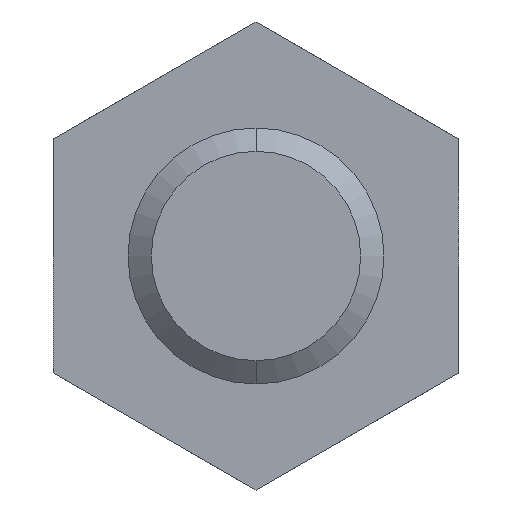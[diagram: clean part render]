
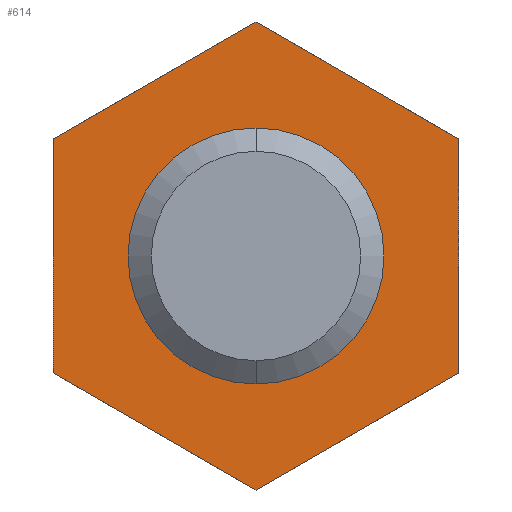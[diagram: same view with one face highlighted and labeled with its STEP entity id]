
A CAD part, front view. The second image highlights one B-rep face of the part: STEP entity #614.
In plain terms, the highlighted planar face has unit normal (0, -1, 0).
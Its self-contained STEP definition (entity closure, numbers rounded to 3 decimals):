
#261 = VERTEX_POINT ( 'NONE', #2275 ) ;
#263 = EDGE_CURVE ( 'NONE', #274, #261, #2274, .T. ) ;
#274 = VERTEX_POINT ( 'NONE', #2300 ) ;
#276 = EDGE_CURVE ( 'NONE', #1784, #274, #2299, .T. ) ;
#328 = EDGE_CURVE ( 'NONE', #261, #1661, #2379, .T. ) ;
#614 = ADVANCED_FACE ( 'NONE', ( #2861, #2857 ), #2856, .T. ) ;
#615 = EDGE_LOOP ( 'NONE', ( #616, #617 ) ) ;
#616 = ORIENTED_EDGE ( 'NONE', *, *, #5480, .T. ) ;
#617 = ORIENTED_EDGE ( 'NONE', *, *, #618, .T. ) ;
#618 = EDGE_CURVE ( 'NONE', #5482, #5481, #2850, .T. ) ;
#619 = EDGE_LOOP ( 'NONE', ( #620, #621, #622, #623, #677, #678 ) ) ;
#620 = ORIENTED_EDGE ( 'NONE', *, *, #1645, .T. ) ;
#621 = ORIENTED_EDGE ( 'NONE', *, *, #1721, .T. ) ;
#622 = ORIENTED_EDGE ( 'NONE', *, *, #1789, .T. ) ;
#623 = ORIENTED_EDGE ( 'NONE', *, *, #276, .T. ) ;
#677 = ORIENTED_EDGE ( 'NONE', *, *, #263, .T. ) ;
#678 = ORIENTED_EDGE ( 'NONE', *, *, #328, .T. ) ;
#1643 = VERTEX_POINT ( 'NONE', #4713 ) ;
#1645 = EDGE_CURVE ( 'NONE', #1661, #1643, #4712, .T. ) ;
#1661 = VERTEX_POINT ( 'NONE', #4749 ) ;
#1721 = EDGE_CURVE ( 'NONE', #1643, #1728, #4824, .T. ) ;
#1728 = VERTEX_POINT ( 'NONE', #4850 ) ;
#1784 = VERTEX_POINT ( 'NONE', #4989 ) ;
#1789 = EDGE_CURVE ( 'NONE', #1728, #1784, #4986, .T. ) ;
#2271 = DIRECTION ( 'NONE',  ( 0.866, 0., 0.5 ) ) ;
#2272 = VECTOR ( 'NONE', #2271, 1000. ) ;
#2273 = CARTESIAN_POINT ( 'NONE',  ( 0., 40., -10.97 ) ) ;
#2274 = LINE ( 'NONE', #2273, #2272 ) ;
#2275 = CARTESIAN_POINT ( 'NONE',  ( 9.5, 40., -5.485 ) ) ;
#2296 = DIRECTION ( 'NONE',  ( 0.866, 0., -0.5 ) ) ;
#2297 = VECTOR ( 'NONE', #2296, 1000. ) ;
#2298 = CARTESIAN_POINT ( 'NONE',  ( -9.5, 40., -5.485 ) ) ;
#2299 = LINE ( 'NONE', #2298, #2297 ) ;
#2300 = CARTESIAN_POINT ( 'NONE',  ( 0., 40., -10.97 ) ) ;
#2379 = LINE ( 'NONE', #2434, #2433 ) ;
#2432 = DIRECTION ( 'NONE',  ( 0., 0., 1. ) ) ;
#2433 = VECTOR ( 'NONE', #2432, 1000. ) ;
#2434 = CARTESIAN_POINT ( 'NONE',  ( 9.5, 40., -5.485 ) ) ;
#2847 = DIRECTION ( 'NONE',  ( -1., 0., 0. ) ) ;
#2848 = DIRECTION ( 'NONE',  ( 0., 1., 0. ) ) ;
#2849 = AXIS2_PLACEMENT_3D ( 'NONE', #2854, #2848, #2847 ) ;
#2850 = CIRCLE ( 'NONE', #2849, 6. ) ;
#2851 = DIRECTION ( 'NONE',  ( 1., 0., 0. ) ) ;
#2852 = DIRECTION ( 'NONE',  ( 0., -1., 0. ) ) ;
#2853 = CARTESIAN_POINT ( 'NONE',  ( -6., 40., 0. ) ) ;
#2854 = CARTESIAN_POINT ( 'NONE',  ( 0., 40., 0. ) ) ;
#2855 = AXIS2_PLACEMENT_3D ( 'NONE', #2853, #2852, #2851 ) ;
#2856 = PLANE ( 'NONE',  #2855 ) ;
#2857 = FACE_OUTER_BOUND ( 'NONE', #619, .T. ) ;
#2861 = FACE_BOUND ( 'NONE', #615, .T. ) ;
#4709 = DIRECTION ( 'NONE',  ( -0.866, 0., 0.5 ) ) ;
#4710 = VECTOR ( 'NONE', #4709, 1000. ) ;
#4711 = CARTESIAN_POINT ( 'NONE',  ( 9.5, 40., 5.485 ) ) ;
#4712 = LINE ( 'NONE', #4711, #4710 ) ;
#4713 = CARTESIAN_POINT ( 'NONE',  ( 0., 40., 10.97 ) ) ;
#4749 = CARTESIAN_POINT ( 'NONE',  ( 9.5, 40., 5.485 ) ) ;
#4818 = DIRECTION ( 'NONE',  ( -0.866, 0., -0.5 ) ) ;
#4819 = VECTOR ( 'NONE', #4818, 1000. ) ;
#4820 = CARTESIAN_POINT ( 'NONE',  ( 0., 40., 10.97 ) ) ;
#4824 = LINE ( 'NONE', #4820, #4819 ) ;
#4850 = CARTESIAN_POINT ( 'NONE',  ( -9.5, 40., 5.485 ) ) ;
#4983 = DIRECTION ( 'NONE',  ( 0., 0., -1. ) ) ;
#4984 = VECTOR ( 'NONE', #4983, 1000. ) ;
#4985 = CARTESIAN_POINT ( 'NONE',  ( -9.5, 40., 5.485 ) ) ;
#4986 = LINE ( 'NONE', #4985, #4984 ) ;
#4989 = CARTESIAN_POINT ( 'NONE',  ( -9.5, 40., -5.485 ) ) ;
#5090 = CARTESIAN_POINT ( 'NONE',  ( 6., 40., 0. ) ) ;
#5091 = CARTESIAN_POINT ( 'NONE',  ( -6., 40., 0. ) ) ;
#5092 = DIRECTION ( 'NONE',  ( -1., 0., 0. ) ) ;
#5093 = DIRECTION ( 'NONE',  ( 0., 1., 0. ) ) ;
#5094 = CARTESIAN_POINT ( 'NONE',  ( 0., 40., 0. ) ) ;
#5095 = AXIS2_PLACEMENT_3D ( 'NONE', #5094, #5093, #5092 ) ;
#5096 = CIRCLE ( 'NONE', #5095, 6. ) ;
#5480 = EDGE_CURVE ( 'NONE', #5481, #5482, #5096, .T. ) ;
#5481 = VERTEX_POINT ( 'NONE', #5091 ) ;
#5482 = VERTEX_POINT ( 'NONE', #5090 ) ;
